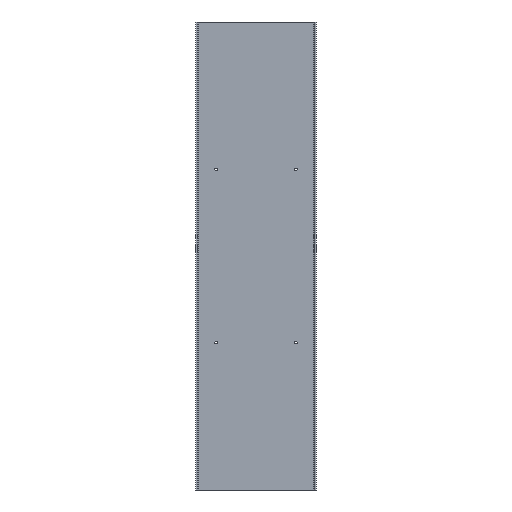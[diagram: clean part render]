
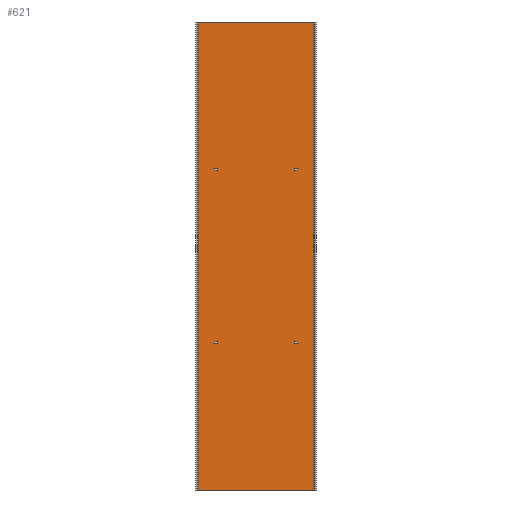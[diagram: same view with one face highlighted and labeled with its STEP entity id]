
A CAD part, front view. The second image highlights one B-rep face of the part: STEP entity #621.
In plain terms, the highlighted planar face has unit normal (0, -1, 0).
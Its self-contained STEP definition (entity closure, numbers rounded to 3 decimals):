
#23 = DIRECTION ( 'NONE',  ( 0., 0., -1. ) ) ;
#28 = CIRCLE ( 'NONE', #494, 3. ) ;
#34 = EDGE_LOOP ( 'NONE', ( #43, #181 ) ) ;
#42 = CARTESIAN_POINT ( 'NONE',  ( 0., 156., 1000. ) ) ;
#43 = ORIENTED_EDGE ( 'NONE', *, *, #720, .F. ) ;
#60 = VECTOR ( 'NONE', #99, 1000. ) ;
#78 = AXIS2_PLACEMENT_3D ( 'NONE', #108, #576, #633 ) ;
#87 = DIRECTION ( 'NONE',  ( 0., -1., 0. ) ) ;
#88 = DIRECTION ( 'NONE',  ( 0., 0., -1. ) ) ;
#93 = DIRECTION ( 'NONE',  ( 0., -1., 0. ) ) ;
#95 = FACE_OUTER_BOUND ( 'NONE', #109, .T. ) ;
#99 = DIRECTION ( 'NONE',  ( 0., 0., 1. ) ) ;
#102 = DIRECTION ( 'NONE',  ( 0., 0., -1. ) ) ;
#103 = DIRECTION ( 'NONE',  ( 0., 0., -1. ) ) ;
#108 = CARTESIAN_POINT ( 'NONE',  ( 211., 156., 315. ) ) ;
#109 = EDGE_LOOP ( 'NONE', ( #445, #223, #187, #145 ) ) ;
#110 = VERTEX_POINT ( 'NONE', #118 ) ;
#113 = DIRECTION ( 'NONE',  ( 0., -1., 0. ) ) ;
#118 = CARTESIAN_POINT ( 'NONE',  ( 211., 156., 312. ) ) ;
#119 = VERTEX_POINT ( 'NONE', #704 ) ;
#120 = VERTEX_POINT ( 'NONE', #443 ) ;
#145 = ORIENTED_EDGE ( 'NONE', *, *, #787, .T. ) ;
#146 = CARTESIAN_POINT ( 'NONE',  ( 249., 156., 0. ) ) ;
#163 = CIRCLE ( 'NONE', #544, 3. ) ;
#164 = VERTEX_POINT ( 'NONE', #566 ) ;
#181 = ORIENTED_EDGE ( 'NONE', *, *, #414, .F. ) ;
#187 = ORIENTED_EDGE ( 'NONE', *, *, #535, .T. ) ;
#188 = DIRECTION ( 'NONE',  ( 0., -1., 0. ) ) ;
#208 = CIRCLE ( 'NONE', #78, 3. ) ;
#212 = AXIS2_PLACEMENT_3D ( 'NONE', #221, #87, #677 ) ;
#221 = CARTESIAN_POINT ( 'NONE',  ( 211., 156., 315. ) ) ;
#222 = FACE_BOUND ( 'NONE', #322, .T. ) ;
#223 = ORIENTED_EDGE ( 'NONE', *, *, #591, .T. ) ;
#227 = DIRECTION ( 'NONE',  ( 0., -1., 0. ) ) ;
#228 = FACE_BOUND ( 'NONE', #34, .T. ) ;
#261 = VERTEX_POINT ( 'NONE', #655 ) ;
#269 = CARTESIAN_POINT ( 'NONE',  ( 41., 156., 688. ) ) ;
#276 = LINE ( 'NONE', #789, #291 ) ;
#283 = DIRECTION ( 'NONE',  ( -1., 0., 0. ) ) ;
#287 = DIRECTION ( 'NONE',  ( 0., 0., -1. ) ) ;
#291 = VECTOR ( 'NONE', #23, 1000. ) ;
#294 = VERTEX_POINT ( 'NONE', #812 ) ;
#297 = EDGE_CURVE ( 'NONE', #120, #631, #345, .T. ) ;
#310 = ORIENTED_EDGE ( 'NONE', *, *, #597, .F. ) ;
#322 = EDGE_LOOP ( 'NONE', ( #563, #828 ) ) ;
#327 = CIRCLE ( 'NONE', #431, 3. ) ;
#343 = DIRECTION ( 'NONE',  ( -1., 0., 0. ) ) ;
#345 = CIRCLE ( 'NONE', #539, 3. ) ;
#365 = DIRECTION ( 'NONE',  ( 0., 0., -1. ) ) ;
#389 = EDGE_CURVE ( 'NONE', #747, #261, #28, .T. ) ;
#414 = EDGE_CURVE ( 'NONE', #110, #164, #602, .T. ) ;
#423 = VECTOR ( 'NONE', #283, 1000. ) ;
#426 = PLANE ( 'NONE',  #706 ) ;
#431 = AXIS2_PLACEMENT_3D ( 'NONE', #736, #93, #102 ) ;
#432 = CARTESIAN_POINT ( 'NONE',  ( 211., 156., 685. ) ) ;
#436 = EDGE_CURVE ( 'NONE', #261, #747, #327, .T. ) ;
#443 = CARTESIAN_POINT ( 'NONE',  ( 41., 156., 318. ) ) ;
#445 = ORIENTED_EDGE ( 'NONE', *, *, #570, .F. ) ;
#449 = EDGE_LOOP ( 'NONE', ( #675, #762 ) ) ;
#451 = EDGE_CURVE ( 'NONE', #635, #119, #824, .T. ) ;
#469 = CARTESIAN_POINT ( 'NONE',  ( 3., 156., 1000. ) ) ;
#473 = CARTESIAN_POINT ( 'NONE',  ( 0., 156., 1000. ) ) ;
#484 = DIRECTION ( 'NONE',  ( 0., -1., 0. ) ) ;
#488 = CARTESIAN_POINT ( 'NONE',  ( 211., 156., 682. ) ) ;
#494 = AXIS2_PLACEMENT_3D ( 'NONE', #802, #227, #287 ) ;
#495 = DIRECTION ( 'NONE',  ( 0., 0., -1. ) ) ;
#507 = CARTESIAN_POINT ( 'NONE',  ( 249., 156., 1000. ) ) ;
#535 = EDGE_CURVE ( 'NONE', #684, #814, #791, .T. ) ;
#539 = AXIS2_PLACEMENT_3D ( 'NONE', #697, #113, #495 ) ;
#544 = AXIS2_PLACEMENT_3D ( 'NONE', #605, #810, #88 ) ;
#547 = CARTESIAN_POINT ( 'NONE',  ( 249., 156., 1000. ) ) ;
#550 = DIRECTION ( 'NONE',  ( 0., 0., -1. ) ) ;
#553 = CARTESIAN_POINT ( 'NONE',  ( 211., 156., 685. ) ) ;
#563 = ORIENTED_EDGE ( 'NONE', *, *, #694, .F. ) ;
#566 = CARTESIAN_POINT ( 'NONE',  ( 211., 156., 318. ) ) ;
#570 = EDGE_CURVE ( 'NONE', #748, #294, #666, .T. ) ;
#576 = DIRECTION ( 'NONE',  ( 0., -1., 0. ) ) ;
#591 = EDGE_CURVE ( 'NONE', #748, #684, #734, .T. ) ;
#597 = EDGE_CURVE ( 'NONE', #631, #120, #163, .T. ) ;
#601 = CARTESIAN_POINT ( 'NONE',  ( 0., 156., 0. ) ) ;
#602 = CIRCLE ( 'NONE', #212, 3. ) ;
#605 = CARTESIAN_POINT ( 'NONE',  ( 41., 156., 315. ) ) ;
#608 = AXIS2_PLACEMENT_3D ( 'NONE', #553, #484, #550 ) ;
#621 = ADVANCED_FACE ( 'NONE', ( #737, #222, #228, #803, #95 ), #426, .T. ) ;
#631 = VERTEX_POINT ( 'NONE', #806 ) ;
#633 = DIRECTION ( 'NONE',  ( 0., 0., -1. ) ) ;
#635 = VERTEX_POINT ( 'NONE', #488 ) ;
#655 = CARTESIAN_POINT ( 'NONE',  ( 41., 156., 682. ) ) ;
#660 = CIRCLE ( 'NONE', #774, 3. ) ;
#666 = LINE ( 'NONE', #601, #423 ) ;
#675 = ORIENTED_EDGE ( 'NONE', *, *, #389, .F. ) ;
#677 = DIRECTION ( 'NONE',  ( 0., 0., -1. ) ) ;
#684 = VERTEX_POINT ( 'NONE', #507 ) ;
#694 = EDGE_CURVE ( 'NONE', #119, #635, #660, .T. ) ;
#697 = CARTESIAN_POINT ( 'NONE',  ( 41., 156., 315. ) ) ;
#704 = CARTESIAN_POINT ( 'NONE',  ( 211., 156., 688. ) ) ;
#706 = AXIS2_PLACEMENT_3D ( 'NONE', #42, #731, #103 ) ;
#720 = EDGE_CURVE ( 'NONE', #164, #110, #208, .T. ) ;
#731 = DIRECTION ( 'NONE',  ( 0., -1., 0. ) ) ;
#734 = LINE ( 'NONE', #547, #60 ) ;
#736 = CARTESIAN_POINT ( 'NONE',  ( 41., 156., 685. ) ) ;
#737 = FACE_BOUND ( 'NONE', #449, .T. ) ;
#747 = VERTEX_POINT ( 'NONE', #269 ) ;
#748 = VERTEX_POINT ( 'NONE', #146 ) ;
#754 = VECTOR ( 'NONE', #343, 1000. ) ;
#762 = ORIENTED_EDGE ( 'NONE', *, *, #436, .F. ) ;
#774 = AXIS2_PLACEMENT_3D ( 'NONE', #432, #188, #365 ) ;
#787 = EDGE_CURVE ( 'NONE', #814, #294, #276, .T. ) ;
#789 = CARTESIAN_POINT ( 'NONE',  ( 3., 156., 0. ) ) ;
#791 = LINE ( 'NONE', #473, #754 ) ;
#802 = CARTESIAN_POINT ( 'NONE',  ( 41., 156., 685. ) ) ;
#803 = FACE_BOUND ( 'NONE', #823, .T. ) ;
#805 = ORIENTED_EDGE ( 'NONE', *, *, #297, .F. ) ;
#806 = CARTESIAN_POINT ( 'NONE',  ( 41., 156., 312. ) ) ;
#810 = DIRECTION ( 'NONE',  ( 0., -1., 0. ) ) ;
#812 = CARTESIAN_POINT ( 'NONE',  ( 3., 156., 0. ) ) ;
#814 = VERTEX_POINT ( 'NONE', #469 ) ;
#823 = EDGE_LOOP ( 'NONE', ( #805, #310 ) ) ;
#824 = CIRCLE ( 'NONE', #608, 3. ) ;
#828 = ORIENTED_EDGE ( 'NONE', *, *, #451, .F. ) ;
